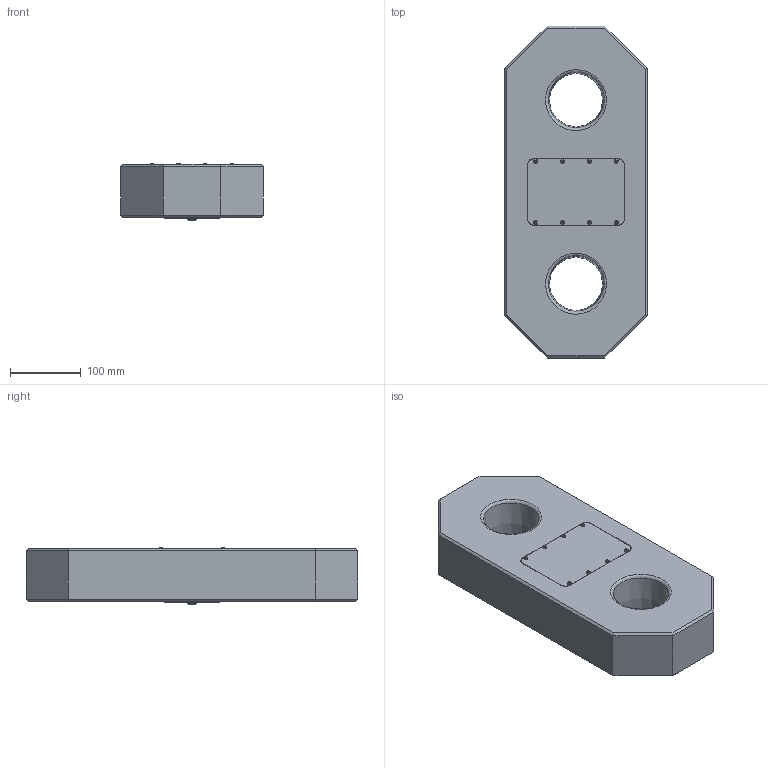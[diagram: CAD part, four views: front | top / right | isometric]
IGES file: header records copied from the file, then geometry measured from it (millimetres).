
Global section: file name: RLP75T; native system: Autodesk Inventor 2016; preprocessor: unknown; author: rdivakaran; date: 20180811.132117; units: metre
Bounding box: 202 x 470 x 81.42 mm (x, y, z)
Volume: 5861619.5 mm3; surface area: 299152.6 mm2
Topology: 1 solids, 1 shells, 914 faces, 2603 edges, 1768 vertices
Faces by surface type: bspline 914
